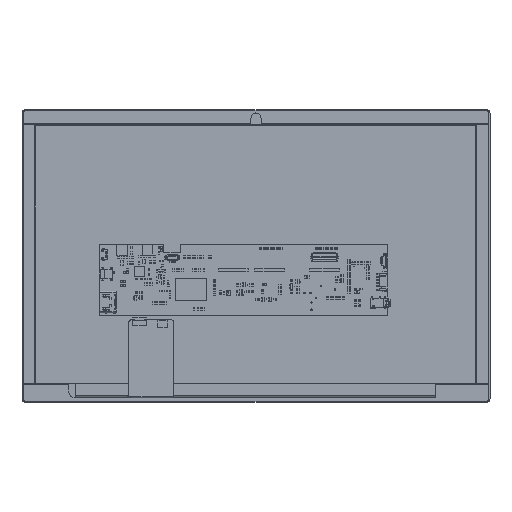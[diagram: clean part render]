
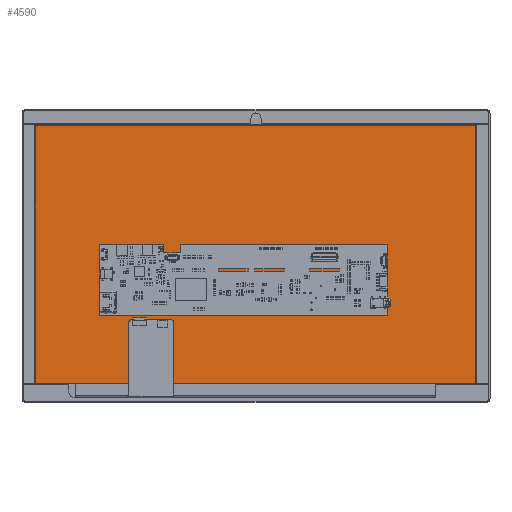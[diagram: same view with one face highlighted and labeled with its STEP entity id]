
A CAD part, top view. The second image highlights one B-rep face of the part: STEP entity #4590.
In plain terms, the highlighted planar face has unit normal (0, 0, 1).
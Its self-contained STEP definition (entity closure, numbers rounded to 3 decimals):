
#4195=DIRECTION('',(0.,1.,0.));
#4196=VECTOR('',#4195,178.3);
#4197=CARTESIAN_POINT('',(-153.21,-91.23,3.5));
#4198=LINE('',#4197,#4196);
#4202=DIRECTION('',(1.,0.,0.));
#4203=VECTOR('',#4202,305.3);
#4204=CARTESIAN_POINT('',(-153.21,87.07,3.5));
#4205=LINE('',#4204,#4203);
#4209=DIRECTION('',(0.,-1.,0.));
#4210=VECTOR('',#4209,178.3);
#4211=CARTESIAN_POINT('',(152.09,87.07,3.5));
#4212=LINE('',#4211,#4210);
#4216=DIRECTION('',(-1.,0.,0.));
#4217=VECTOR('',#4216,305.3);
#4218=CARTESIAN_POINT('',(152.09,-91.23,3.5));
#4219=LINE('',#4218,#4217);
#4247=CARTESIAN_POINT('',(-153.21,-91.23,3.5));
#4248=CARTESIAN_POINT('',(-153.21,87.07,3.5));
#4249=VERTEX_POINT('',#4247);
#4250=VERTEX_POINT('',#4248);
#4251=CARTESIAN_POINT('',(152.09,87.07,3.5));
#4252=VERTEX_POINT('',#4251);
#4253=CARTESIAN_POINT('',(152.09,-91.23,3.5));
#4254=VERTEX_POINT('',#4253);
#4579=CARTESIAN_POINT('',(0.,0.,3.5));
#4580=DIRECTION('',(0.,0.,-1.));
#4581=DIRECTION('',(1.,0.,0.));
#4582=AXIS2_PLACEMENT_3D('',#4579,#4580,#4581);
#4583=PLANE('',#4582);
#4584=ORIENTED_EDGE('',*,*,#4546,.T.);
#4585=ORIENTED_EDGE('',*,*,#4560,.T.);
#4586=ORIENTED_EDGE('',*,*,#4573,.T.);
#4587=ORIENTED_EDGE('',*,*,#4415,.T.);
#4588=EDGE_LOOP('',(#4584,#4585,#4586,#4587));
#4589=FACE_OUTER_BOUND('',#4588,.F.);
#4590=ADVANCED_FACE('',(#4589),#4583,.F.);
#4415=EDGE_CURVE('',#4254,#4249,#4219,.T.);
#4546=EDGE_CURVE('',#4249,#4250,#4198,.T.);
#4560=EDGE_CURVE('',#4250,#4252,#4205,.T.);
#4573=EDGE_CURVE('',#4252,#4254,#4212,.T.);
